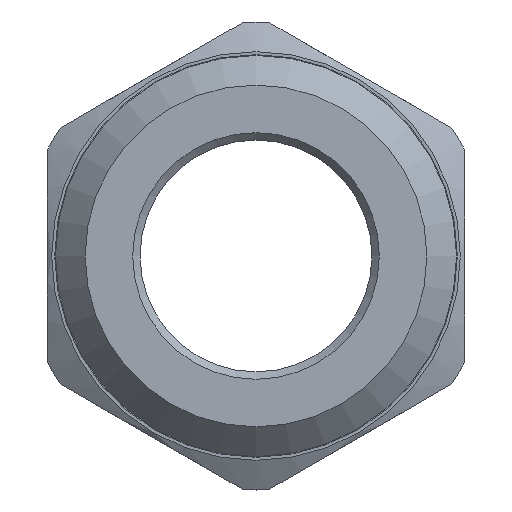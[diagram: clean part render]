
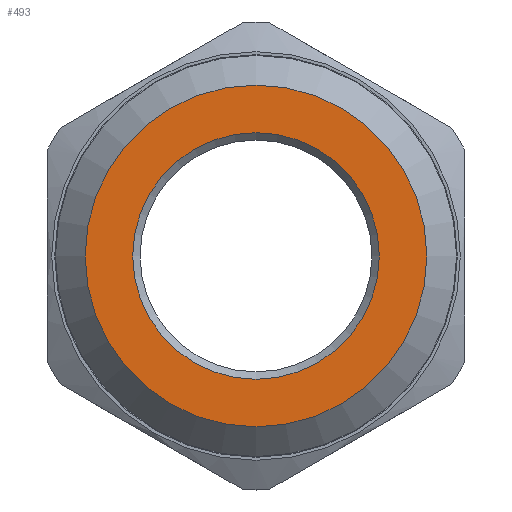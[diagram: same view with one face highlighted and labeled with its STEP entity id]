
A CAD part, front view. The second image highlights one B-rep face of the part: STEP entity #493.
In plain terms, the highlighted planar face has unit normal (0, -1, 0).
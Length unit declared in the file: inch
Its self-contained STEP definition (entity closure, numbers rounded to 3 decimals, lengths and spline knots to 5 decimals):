
#28=FACE_BOUND('',#91,.T.);
#34=PLANE('',#543);
#60=FACE_OUTER_BOUND('',#90,.T.);
#90=EDGE_LOOP('',(#351));
#91=EDGE_LOOP('',(#352));
#172=CIRCLE('',#542,0.166);
#173=CIRCLE('',#544,0.23);
#212=VERTEX_POINT('',#783);
#213=VERTEX_POINT('',#787);
#267=EDGE_CURVE('',#212,#212,#172,.T.);
#268=EDGE_CURVE('',#213,#213,#173,.T.);
#351=ORIENTED_EDGE('',*,*,#268,.F.);
#352=ORIENTED_EDGE('',*,*,#267,.F.);
#493=ADVANCED_FACE('',(#60,#28),#34,.T.);
#542=AXIS2_PLACEMENT_3D('',#785,#626,#627);
#543=AXIS2_PLACEMENT_3D('',#786,#628,#629);
#544=AXIS2_PLACEMENT_3D('',#788,#630,#631);
#626=DIRECTION('center_axis',(0.,-1.,0.));
#627=DIRECTION('ref_axis',(0.,0.,1.));
#628=DIRECTION('center_axis',(0.,-1.,0.));
#629=DIRECTION('ref_axis',(0.,0.,-1.));
#630=DIRECTION('center_axis',(0.,1.,0.));
#631=DIRECTION('ref_axis',(0.,0.,1.));
#783=CARTESIAN_POINT('',(0.,0.,-0.166));
#785=CARTESIAN_POINT('Origin',(0.,0.,0.));
#786=CARTESIAN_POINT('Origin',(0.,0.,-0.156));
#787=CARTESIAN_POINT('',(0.,0.,-0.23));
#788=CARTESIAN_POINT('Origin',(0.,0.,0.));
